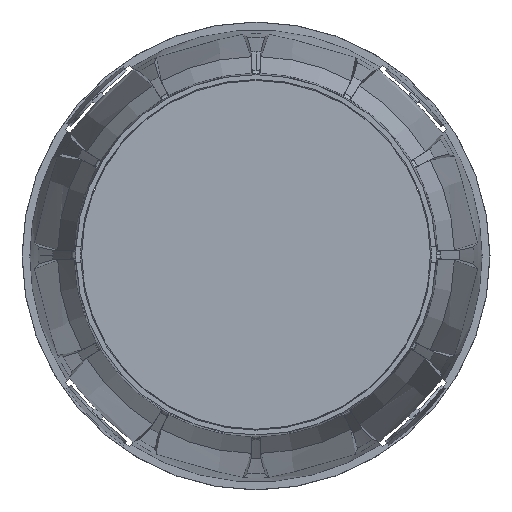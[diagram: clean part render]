
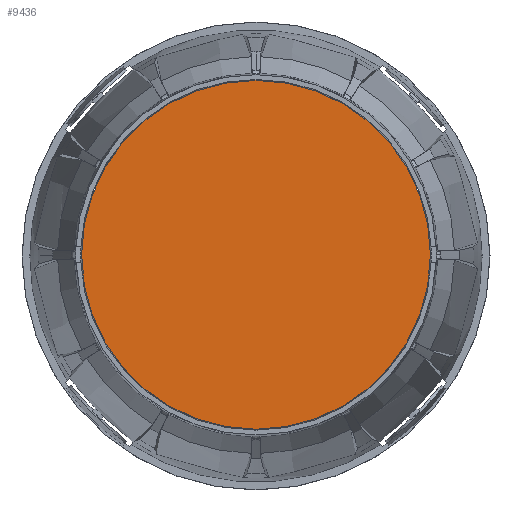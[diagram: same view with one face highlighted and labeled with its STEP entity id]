
A CAD part, top view. The second image highlights one B-rep face of the part: STEP entity #9436.
In plain terms, the highlighted planar face has unit normal (0, 0, 1).
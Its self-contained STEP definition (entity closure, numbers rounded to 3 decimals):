
#108 = EDGE_LOOP ( 'NONE', ( #7315 ) ) ;
#1722 = CIRCLE ( 'NONE', #16369, 65.2 ) ;
#4443 = DIRECTION ( 'NONE',  ( 0., 1., 0. ) ) ;
#5843 = PLANE ( 'NONE',  #17199 ) ;
#6043 = DIRECTION ( 'NONE',  ( 0., 0., -1. ) ) ;
#7315 = ORIENTED_EDGE ( 'NONE', *, *, #10669, .T. ) ;
#8736 = CARTESIAN_POINT ( 'NONE',  ( 0., 0., 7.181 ) ) ;
#9155 = FACE_OUTER_BOUND ( 'NONE', #108, .T. ) ;
#9436 = ADVANCED_FACE ( 'NONE', ( #9155 ), #5843, .F. ) ;
#10669 = EDGE_CURVE ( 'NONE', #10720, #10720, #1722, .T. ) ;
#10720 = VERTEX_POINT ( 'NONE', #17337 ) ;
#15215 = DIRECTION ( 'NONE',  ( 0., -1., 0. ) ) ;
#16369 = AXIS2_PLACEMENT_3D ( 'NONE', #8736, #18514, #15215 ) ;
#17199 = AXIS2_PLACEMENT_3D ( 'NONE', #20769, #6043, #4443 ) ;
#17337 = CARTESIAN_POINT ( 'NONE',  ( 0., -65.2, 7.181 ) ) ;
#18514 = DIRECTION ( 'NONE',  ( 0., 0., 1. ) ) ;
#20769 = CARTESIAN_POINT ( 'NONE',  ( -65.2, 0., 7.181 ) ) ;
